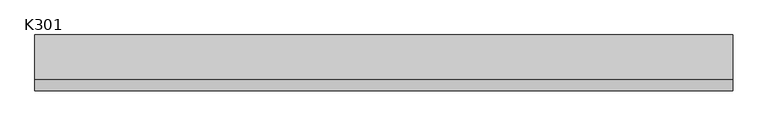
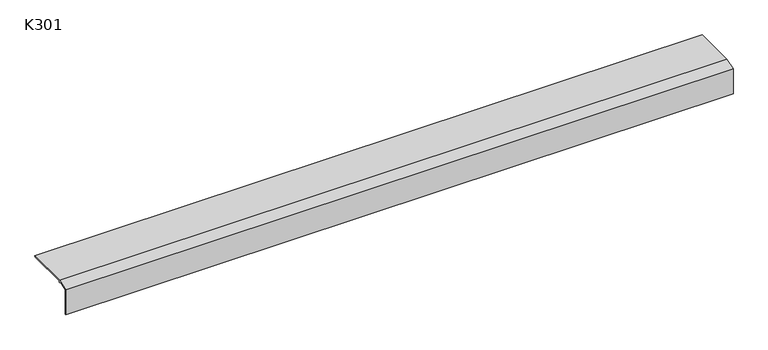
"""IFC4 building model written with IfcOpenShell, lengths in millimetres: proxy geometry, K301 Profil okapowy prosty : K301."""

from ifc_helpers import new_model, si_unit, frame, origin, place, context, project, spatial, polyline, outline, extrude, source, transform, mapped, element, save


def k301_75ea2959(model_context):
    return source(origin(), model_context, "Body", "SweptSolid", [
        extrude(outline(polyline([(-21.5, -6.0), (-1.5, 0.0), (78.5, 0.0), (77.0164314, -1.5004157), (0.0, -1.5004157), (0.0, -4.5), (-1.5, -4.5), (-1.5, -1.566046), (-20.0, -7.116046), (-20.0, -55.4735048), (-21.5, -56.0), (-21.5, -6.0)])), frame((0.0, 0.0, 0.0), z_axis=(1.0, 0.0, 0.0), x_axis=(0.0, 1.0, 0.0)), (0.0, 0.0, 1.0), 1249.1731238),
    ])


if __name__ == "__main__":
    model = new_model("IFC4")
    model_context = context("Model", 3, world=origin())
    ifc_project = project(units=[si_unit("LENGTHUNIT", "METRE", prefix="MILLI")], contexts=[model_context])
    site = spatial("IfcSite", under=ifc_project)
    building = spatial("IfcBuilding", under=site)
    placement = place(None, origin())
    k301_shape = k301_75ea2959(model_context)
    element("IfcBuildingElementProxy", 1, Name="K301 Profil okapowy prosty : K301", ObjectType="K301 Profil okapowy prosty : K301", at=placement, inside=building, context=model_context, shape_type="MappedRepresentation", body=[
        mapped(k301_shape, transform((0.0, 0.0, 0.0), x_axis=(1.0, 0.0, 0.0), y_axis=(0.0, 1.0, 0.0), z_axis=(0.0, 0.0, 1.0))),
    ])
    save(model, "model.ifc")
